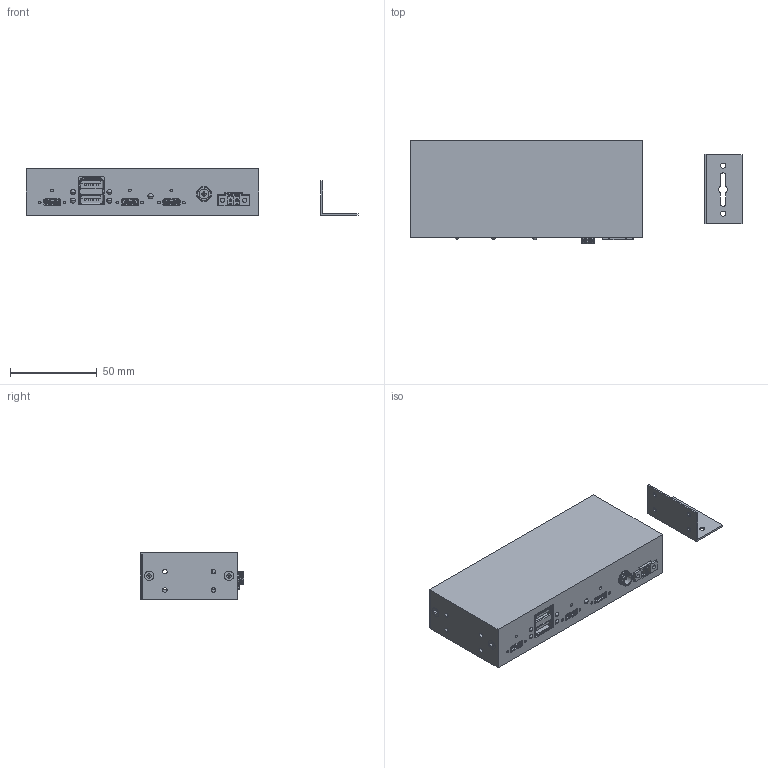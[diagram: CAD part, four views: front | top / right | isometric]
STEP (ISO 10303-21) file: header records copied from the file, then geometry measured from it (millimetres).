
FILE_DESCRIPTION(('FreeCAD Model'),'2;1');
FILE_NAME('Open CASCADE Shape Model','2022-09-08T15:11:41',(''),(''), 'Open CASCADE STEP processor 7.6','FreeCAD','Unknown');
FILE_SCHEMA(('AUTOMOTIVE_DESIGN { 1 0 10303 214 1 1 1 1 }'));
Length unit declared in the file: millimetre
Products named in the file (3): Unbenannt3; EX-11295HMS_3D; Wallmount-Kit
Assembly tree (2 placements, depth 2):
  Unbenannt3
    EX-11295HMS_3D
    Wallmount-Kit
Bounding box: 191.55 x 59.7 x 27 mm (x, y, z)
Volume: 43567.3 mm3; surface area: 73032.2 mm2
Topology: 2 solids, 4 shells, 4134 faces, 11870 edges, 7835 vertices
Faces by surface type: plane 2844, cylinder 982, cone 166, torus 88, bspline 28, sphere 26
Full cylindrical faces by diameter (mm): 0.457 x1, 1.25 x2, 1.567 x4, 1.6 x10, 1.8 x2, 2 x4, 2.459 x4, 2.5 x3, 2.6 x15, 2.8 x8, 3 x15, 3.2 x7, 3.4 x1, 3.5 x4, 4 x4, 5.2 x4, 5.5 x4, 5.7 x1, 6.5 x1, 8.8 x1, 11 x1
Entity records: 366976 total; most frequent: CARTESIAN_POINT 118479, DIRECTION 40317, LINE 25762, VECTOR 25762, ORIENTED_EDGE 23716, PCURVE 23716, DEFINITIONAL_REPRESENTATION 23716, EDGE_CURVE 11858
